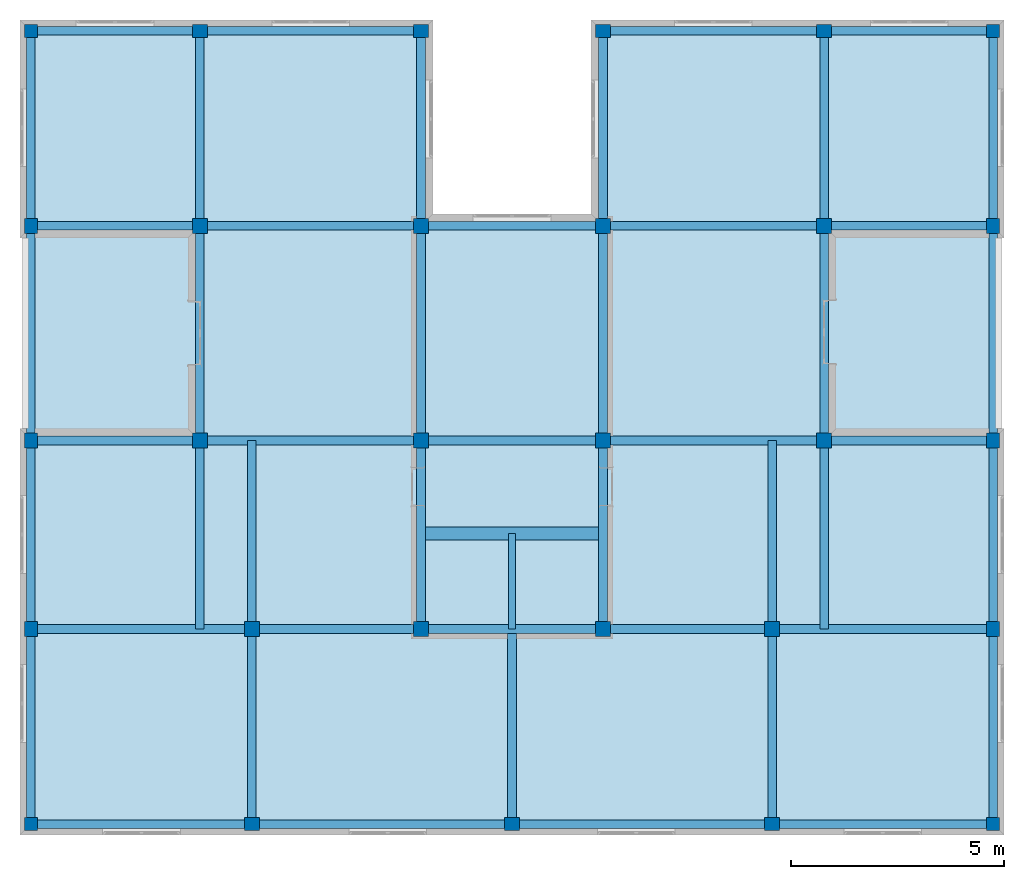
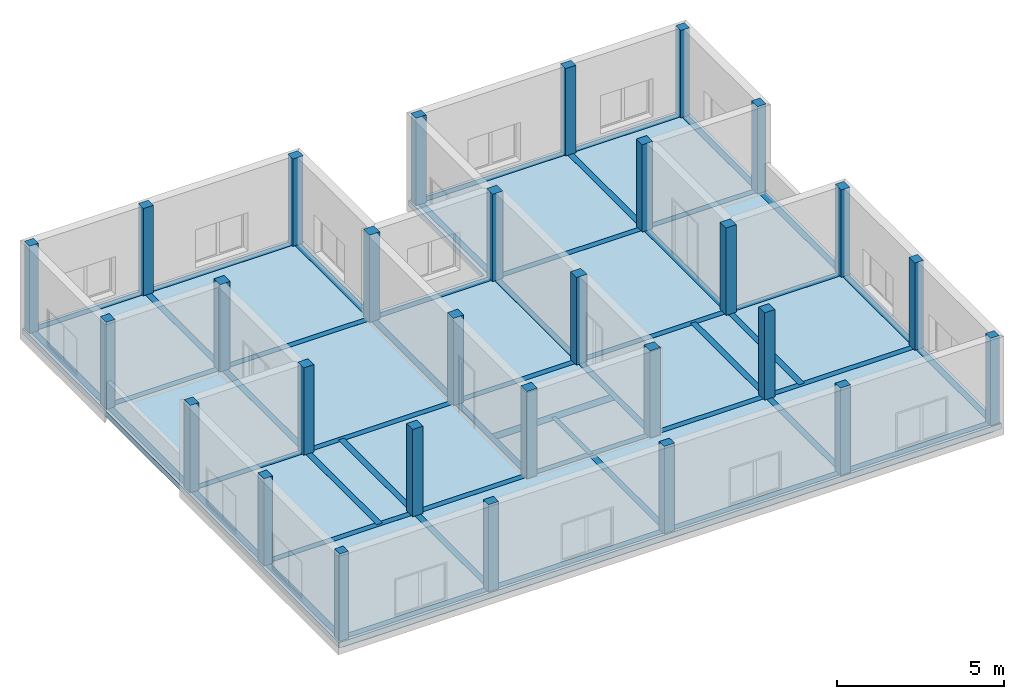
# One storey, part 1 of 6: 50 beams, 29 columns, 1 slab.
"""IFC2X3 building model written with IfcOpenShell, lengths in millimetres."""

import ifcopenshell
import ifcopenshell.guid

model = None  # the IFC model being written
_history = None  # IfcOwnerHistory: only IFC2X3 demands one
_inside = {}  # id of a spatial element -> (the spatial element, [elements in it])
_under = {}  # id of a project, library or spatial element -> (it, [spatial elements below it])
_declared = {}  # id of a project -> (the project, [libraries it declares])
_typed = {}  # id of a type object -> (the type object, [elements of that type])
_made_of = {}  # id of a material, layer set ... -> (it, [elements and type objects made of it])


def new_model(schema):
    """Start an empty IFC model of exactly this schema.

    Asked for "IFC4X3", IfcOpenShell would pick the latest addendum, in which some entities
    have other attributes; the version numbers below select the first issue.
    IFC2X3 requires an IfcOwnerHistory on every rooted entity: one is made here for all.
    """
    global model, _history
    if schema == "IFC4X3":
        model = ifcopenshell.file(schema_version=(4, 3, 0, 0))
    else:
        model = ifcopenshell.file(schema=schema)
    _inside.clear()
    _under.clear()
    _declared.clear()
    _typed.clear()
    _made_of.clear()
    _history = None
    if model.schema == "IFC2X3":
        org = make("IfcOrganization", Name="unknown")
        user = make(
            "IfcPersonAndOrganization",
            ThePerson=make("IfcPerson", FamilyName="unknown"),
            TheOrganization=org,
        )
        app = make(
            "IfcApplication",
            ApplicationDeveloper=org,
            Version="unknown",
            ApplicationFullName="unknown",
            ApplicationIdentifier="unknown",
        )
        _history = make(
            "IfcOwnerHistory",
            OwningUser=user,
            OwningApplication=app,
            ChangeAction="ADDED",
            CreationDate=0,
        )
    return model


def make(cls, **values):
    """One entity of the class cls with the attributes given. An attribute that is None is left unset."""
    return model.create_entity(
        cls, **{name: value for name, value in values.items() if value is not None}
    )


def entity(cls, *values):
    """Any entity or typed value of the class cls, its attributes in the order of the schema. None: left unset."""
    e = model.create_entity(cls)
    for i, value in enumerate(values):
        if value is not None:
            e[i] = value
    return e


def rooted(cls, **values):
    """An entity with a GlobalId (a new one), such as an element, a storey or a relation."""
    return make(cls, GlobalId=ifcopenshell.guid.new(), OwnerHistory=_history, **values)


def si_unit(unit_type, name, prefix=None):
    """IfcSIUnit, for example si_unit("LENGTHUNIT", "METRE", prefix="MILLI")."""
    return make("IfcSIUnit", UnitType=unit_type, Prefix=prefix, Name=name)


def converted_unit(unit_type, name, factor, base, dimensions=None, offset=None):
    """IfcConversionBasedUnit, such as the inch: factor (a typed value) times the base unit."""
    return make(
        "IfcConversionBasedUnit"
        if offset is None
        else "IfcConversionBasedUnitWithOffset",
        ConversionOffset=offset,
        Dimensions=None
        if dimensions is None
        else entity("IfcDimensionalExponents", *dimensions),
        UnitType=unit_type,
        Name=name,
        ConversionFactor=make(
            "IfcMeasureWithUnit", ValueComponent=factor, UnitComponent=base
        ),
    )


def assignment(units):
    """IfcUnitAssignment: the units of a project."""
    return None if units is None else make("IfcUnitAssignment", Units=units)


def point(xyz):
    """IfcCartesianPoint."""
    return None if xyz is None else make("IfcCartesianPoint", Coordinates=xyz)


def direction(xyz):
    """IfcDirection."""
    return None if xyz is None else make("IfcDirection", DirectionRatios=xyz)


def frame(location, z_axis=None, x_axis=None):
    """IfcAxis2Placement3D, a coordinate frame: its origin and axes. An axis left out is left unset."""
    return make(
        "IfcAxis2Placement3D",
        Location=point(location),
        Axis=direction(z_axis),
        RefDirection=direction(x_axis),
    )


def frame_2d(location, x_axis=None):
    """IfcAxis2Placement2D, a coordinate frame in the plane: its origin and x axis."""
    return make(
        "IfcAxis2Placement2D", Location=point(location), RefDirection=direction(x_axis)
    )


def origin_with_axes():
    """The frame at (0, 0, 0) with the z axis (0, 0, 1) and the x axis (1, 0, 0) written out."""
    return frame((0.0, 0.0, 0.0), z_axis=(0.0, 0.0, 1.0), x_axis=(1.0, 0.0, 0.0))


def origin_2d_with_axis():
    """The frame at (0, 0) in the plane with the x axis (1, 0) written out."""
    return frame_2d((0.0, 0.0), x_axis=(1.0, 0.0))


def place(relative_to, where):
    """IfcLocalPlacement: puts the frame where relative to a parent placement (None: the world)."""
    return make(
        "IfcLocalPlacement", PlacementRelTo=relative_to, RelativePlacement=where
    )


def context(
    kind, dimensions, precision=None, world=None, true_north=None, identifier=None
):
    """IfcGeometricRepresentationContext, for example the 3D "Model" context."""
    return make(
        "IfcGeometricRepresentationContext",
        ContextIdentifier=identifier,
        ContextType=kind,
        CoordinateSpaceDimension=dimensions,
        Precision=precision,
        WorldCoordinateSystem=world,
        TrueNorth=true_north,
    )


def subcontext(parent, identifier, kind, view, scale=None):
    """IfcGeometricRepresentationSubContext, for example "Body" below "Model"."""
    return make(
        "IfcGeometricRepresentationSubContext",
        ContextIdentifier=identifier,
        ContextType=kind,
        ParentContext=parent,
        TargetScale=scale,
        TargetView=view,
    )


def project(units=None, contexts=None):
    """IfcProject with its units and contexts."""
    return rooted(
        "IfcProject",
        Name="project",
        RepresentationContexts=contexts,
        UnitsInContext=assignment(units),
    )


def spatial(cls, under=None, at=None, **own):
    """A site, building, storey or space (cls), placed at a placement, below another one or the project."""
    s = rooted(cls, ObjectPlacement=at, **own)
    if under is not None:
        _under.setdefault(under.id(), (under, []))[1].append(s)
    return s


def polyline(points):
    """IfcPolyline through the points."""
    return make("IfcPolyline", Points=[point(p) for p in points])


def profile(cls, at=None, kind="AREA", **sizes):
    """A parametric profile (cls). Its sizes go by their IFC names, for example OverallWidth=200.0."""
    return make(cls, ProfileType=kind, Position=at, **sizes)


def rectangle(**sizes):
    """IfcRectangleProfileDef."""
    return profile("IfcRectangleProfileDef", **sizes)


def outline(outer, holes=None, kind="AREA"):
    """IfcArbitraryClosedProfileDef: a profile drawn as a closed curve; with holes, ...WithVoids."""
    if holes is None:
        return make("IfcArbitraryClosedProfileDef", ProfileType=kind, OuterCurve=outer)
    return make(
        "IfcArbitraryProfileDefWithVoids",
        ProfileType=kind,
        OuterCurve=outer,
        InnerCurves=holes,
    )


def extrude(swept, where, along, depth):
    """IfcExtrudedAreaSolid: the profile swept, set in the frame where, extruded along a direction by depth."""
    return make(
        "IfcExtrudedAreaSolid",
        SweptArea=swept,
        Position=where,
        ExtrudedDirection=direction(along),
        Depth=depth,
    )


def shape(context_of_items, identifier, shape_type, items):
    """IfcShapeRepresentation: the items that make up one representation, for example the "Body"."""
    return make(
        "IfcShapeRepresentation",
        ContextOfItems=context_of_items,
        RepresentationIdentifier=identifier,
        RepresentationType=shape_type,
        Items=items,
    )


def material(Name=None, Category=None):
    """IfcMaterial."""
    return make("IfcMaterial", Name=Name, Category=Category)


def layer(
    of_material, thickness, ventilated=None, Name=None, Category=None, Priority=None
):
    """IfcMaterialLayer: one layer of a wall or slab, of a material (None: an air gap)."""
    return make(
        "IfcMaterialLayer",
        Material=of_material,
        LayerThickness=thickness,
        IsVentilated=ventilated,
        Name=Name,
        Category=Category,
        Priority=Priority,
    )


def layer_set(layers, Name=None):
    """IfcMaterialLayerSet."""
    return make("IfcMaterialLayerSet", MaterialLayers=layers, LayerSetName=Name)


def layer_usage(for_layer_set, set_direction, sense, offset, extent=None):
    """IfcMaterialLayerSetUsage: how a layer set lies in its element."""
    return make(
        "IfcMaterialLayerSetUsage",
        ForLayerSet=for_layer_set,
        LayerSetDirection=set_direction,
        DirectionSense=sense,
        OffsetFromReferenceLine=offset,
        ReferenceExtent=extent,
    )


def made_of(thing, what):
    """Note that an element or type object is made of a material, layer set ...; save() writes the relation."""
    if what is not None:
        _made_of.setdefault(what.id(), (what, []))[1].append(thing)
    return thing


def type_object(cls, material=None, **own):
    """A type object (cls), such as IfcWallType, which elements share."""
    return made_of(rooted(cls, **own), material)


def element(
    cls,
    number,
    at=None,
    inside=None,
    cuts=None,
    type_object=None,
    material=None,
    context=None,
    identifier="Body",
    shape_type=None,
    held_by="IfcProductDefinitionShape",
    body=None,
    shapes=None,
    **own,
):
    """One element of the class cls, such as IfcWall. Its Tag is "e" and its number.

    at: its placement. inside: the storey or other place that contains it. cuts: it is an
    opening in that element (IfcRelVoidsElement). A single representation is given by context,
    identifier, shape_type and body (its items); several are given by shapes. held_by: the class
    of the entity that holds the representations. save() writes the other relations.
    """
    e = rooted(cls, Tag="e%d" % number, ObjectPlacement=at, **own)
    if body is not None:
        shapes = [shape(context, identifier, shape_type, body)]
    if shapes is not None:
        e.Representation = make(held_by, Representations=shapes)
    if inside is not None:
        _inside.setdefault(inside.id(), (inside, []))[1].append(e)
    if cuts is not None:
        rooted(
            "IfcRelVoidsElement", RelatingBuildingElement=cuts, RelatedOpeningElement=e
        )
    if type_object is not None:
        _typed.setdefault(type_object.id(), (type_object, []))[1].append(e)
    return made_of(e, material)


def aggregate(whole, parts):
    """IfcRelAggregates: a whole, such as a stair, and the parts it consists of."""
    return rooted("IfcRelAggregates", RelatingObject=whole, RelatedObjects=parts)


def save(model, path):
    """Write the relations noted so far, then the file.

    IfcRelAggregates (storeys below a building ...), IfcRelContainedInSpatialStructure (elements
    in a storey), IfcRelDefinesByType, IfcRelAssociatesMaterial and IfcRelDeclares: one each for
    every whole, place, type object, material and project.
    """
    for whole, parts in _under.values():
        aggregate(whole, parts)
    for where, things in _inside.values():
        rooted(
            "IfcRelContainedInSpatialStructure",
            RelatedElements=things,
            RelatingStructure=where,
        )
    for kind, things in _typed.values():
        rooted("IfcRelDefinesByType", RelatedObjects=things, RelatingType=kind)
    for what, things in _made_of.values():
        rooted("IfcRelAssociatesMaterial", RelatedObjects=things, RelatingMaterial=what)
    for by, libraries in _declared.values():
        rooted("IfcRelDeclares", RelatingContext=by, RelatedDefinitions=libraries)
    model.write(path)


model = new_model("IFC2X3")

# Units and contexts
model_context = context("Model", 3, precision=1e-05, world=origin_with_axes(), true_north=direction((0.0, 1.0)))
body_context = subcontext(model_context, "Body", "Model", "MODEL_VIEW")
ifc_project = project(units=[si_unit("LENGTHUNIT", "METRE", prefix="MILLI"), si_unit("AREAUNIT", "SQUARE_METRE"), si_unit("VOLUMEUNIT", "CUBIC_METRE"), converted_unit("PLANEANGLEUNIT", "DEGREE", entity("IfcPlaneAngleMeasure", 0.017453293), si_unit("PLANEANGLEUNIT", "RADIAN"), dimensions=[0, 0, 0, 0, 0, 0, 0]), si_unit("SOLIDANGLEUNIT", "STERADIAN"), si_unit("MASSUNIT", "GRAM"), si_unit("TIMEUNIT", "SECOND"), si_unit("THERMODYNAMICTEMPERATUREUNIT", "DEGREE_CELSIUS"), si_unit("LUMINOUSINTENSITYUNIT", "LUMEN")], contexts=[model_context])

# Site, building, storey
site_placement = place(None, origin_with_axes())
site = spatial("IfcSite", under=ifc_project, at=site_placement, Name="Sitio", CompositionType="ELEMENT")
building_placement = place(site_placement, origin_with_axes())
building = spatial("IfcBuilding", under=site, at=building_placement, Name="Ejemplo_StruBIM", CompositionType="ELEMENT")
storey_placement = place(building_placement, frame((0.0, 0.0, 3200.4), z_axis=(0.0, 0.0, 1.0), x_axis=(1.0, 0.0, 0.0)))
storey = spatial("IfcBuildingStorey", under=building, at=storey_placement, Name="First floor", CompositionType="ELEMENT", Elevation=3200.4)

# Columns
ifc_material = material(Name="Hormigón armado")
column_type_1 = type_object("IfcColumnType", Name="12\"X12\"", PredefinedType="NOTDEFINED")
for number, where, z_axis, x_axis, name in (
    (1, (0.0, 0.0, 0.0), (0.0, 0.0, 1.0), (1.0, 0.0, 0.0), "P1"),
    (2, (0.0, 18592.8, 0.0), (0.0, 0.0, 1.0), (1.0, 0.0, 0.0), "P24"),
    (3, (22555.2, 0.0, 0.0), (0.0, 0.0, 1.0), (1.0, 0.0, 0.0), "P5"),
    (4, (22555.2, 18592.8, 0.0), (0.0, 0.0, 1.0), (1.0, 0.0, 0.0), "P29"),
):
    element("IfcColumn", number, at=place(storey_placement, frame(where, z_axis=z_axis, x_axis=x_axis)), inside=storey, type_object=column_type_1, material=ifc_material, Name=name, ObjectType="12\"X12\"", context=body_context, shape_type="SweptSolid", body=[
        extrude(rectangle(XDim=304.8, YDim=304.8, at=origin_2d_with_axis()), origin_with_axes(), (0.0, 0.0, 1.0), 3200.4),
    ])
column_type_2 = type_object("IfcColumnType", Name="12\"X14\"", PredefinedType="NOTDEFINED")
for number, where, z_axis, x_axis, name in (
    (5, (0.0, 4572.0, 0.0), (0.0, 0.0, 1.0), (1.0, 0.0, 0.0), "Pilar-004"),
    (6, (0.0, 8991.6, 0.0), (0.0, 0.0, 1.0), (1.0, 0.0, 0.0), "P12"),
    (7, (0.0, 14020.8, 0.0), (0.0, 0.0, 1.0), (1.0, 0.0, 0.0), "P18"),
    (8, (22555.2, 4572.0, 0.0), (0.0, 0.0, 1.0), (1.0, 0.0, 0.0), "Pilar-004"),
    (9, (22555.2, 8991.6, 0.0), (0.0, 0.0, 1.0), (1.0, 0.0, 0.0), "P17"),
    (10, (22555.2, 14020.8, 0.0), (0.0, 0.0, 1.0), (1.0, 0.0, 0.0), "P23"),
):
    element("IfcColumn", number, at=place(storey_placement, frame(where, z_axis=z_axis, x_axis=x_axis)), inside=storey, type_object=column_type_2, material=ifc_material, Name=name, ObjectType="12\"X14\"", context=body_context, shape_type="SweptSolid", body=[
        extrude(rectangle(XDim=304.8, YDim=355.6, at=origin_2d_with_axis()), origin_with_axes(), (0.0, 0.0, 1.0), 3200.4),
    ])
column_type_3 = type_object("IfcColumnType", Name="14\"X12\"", PredefinedType="NOTDEFINED")
for number, where, z_axis, x_axis, name in (
    (11, (5181.6, 0.0, 0.0), (0.0, 0.0, 1.0), (1.0, 0.0, 0.0), "P2"),
    (12, (11277.6, 0.0, 0.0), (0.0, 0.0, 1.0), (1.0, 0.0, 0.0), "P3"),
    (13, (9144.0, 18592.8, 0.0), (0.0, 0.0, 1.0), (1.0, 0.0, 0.0), "P26"),
    (14, (3962.4, 18592.8, 0.0), (0.0, 0.0, 1.0), (1.0, 0.0, 0.0), "P25"),
    (15, (17373.6, 0.0, 0.0), (0.0, 0.0, 1.0), (1.0, 0.0, 0.0), "P4"),
    (16, (13411.2, 18592.8, 0.0), (0.0, 0.0, 1.0), (1.0, 0.0, 0.0), "P27"),
    (17, (18592.8, 18592.8, 0.0), (0.0, 0.0, 1.0), (1.0, 0.0, 0.0), "P28"),
):
    element("IfcColumn", number, at=place(storey_placement, frame(where, z_axis=z_axis, x_axis=x_axis)), inside=storey, type_object=column_type_3, material=ifc_material, Name=name, ObjectType="14\"X12\"", context=body_context, shape_type="SweptSolid", body=[
        extrude(rectangle(XDim=355.6, YDim=304.8, at=origin_2d_with_axis()), origin_with_axes(), (0.0, 0.0, 1.0), 3200.4),
    ])
column_type_4 = type_object("IfcColumnType", Name="14\"X14\"", PredefinedType="NOTDEFINED")
for number, where, z_axis, x_axis, name in (
    (18, (5181.6, 4572.0, 0.0), (0.0, 0.0, 1.0), (1.0, 0.0, 0.0), "Pilar-004"),
    (19, (3962.4, 8991.6, 0.0), (0.0, 0.0, 1.0), (1.0, 0.0, 0.0), "P13"),
    (20, (3962.4, 14020.8, 0.0), (0.0, 0.0, 1.0), (1.0, 0.0, 0.0), "P19"),
    (21, (9144.0, 14020.8, 0.0), (0.0, 0.0, 1.0), (1.0, 0.0, 0.0), "P20"),
    (22, (9144.0, 8991.6, 0.0), (0.0, 0.0, 1.0), (1.0, 0.0, 0.0), "P14"),
    (23, (9144.0, 4572.0, 0.0), (0.0, 0.0, 1.0), (1.0, 0.0, 0.0), "Pilar-004"),
    (24, (17373.6, 4572.0, 0.0), (0.0, 0.0, 1.0), (1.0, 0.0, 0.0), "Pilar-004"),
    (25, (18592.8, 8991.6, 0.0), (0.0, 0.0, 1.0), (1.0, 0.0, 0.0), "P16"),
    (26, (18592.8, 14020.8, 0.0), (0.0, 0.0, 1.0), (1.0, 0.0, 0.0), "P22"),
    (27, (13411.2, 14020.8, 0.0), (0.0, 0.0, 1.0), (1.0, 0.0, 0.0), "P21"),
    (28, (13411.2, 8991.6, 0.0), (0.0, 0.0, 1.0), (1.0, 0.0, 0.0), "P15"),
    (29, (13411.2, 4572.0, 0.0), (0.0, 0.0, 1.0), (1.0, 0.0, 0.0), "Pilar-004"),
):
    element("IfcColumn", number, at=place(storey_placement, frame(where, z_axis=z_axis, x_axis=x_axis)), inside=storey, type_object=column_type_4, material=ifc_material, Name=name, ObjectType="14\"X14\"", context=body_context, shape_type="SweptSolid", body=[
        extrude(rectangle(XDim=355.6, YDim=355.6, at=origin_2d_with_axis()), origin_with_axes(), (0.0, 0.0, 1.0), 3200.4),
    ])

# Beams
beam_type_1 = type_object("IfcBeamType", Name="12\"X8\"", PredefinedType="NOTDEFINED")
beam_1_placement = place(storey_placement, frame((0.0, 0.0, 0.0), z_axis=(0.0, 0.0, 1.0), x_axis=(0.0, -1.0, 0.0)))
element("IfcBeam", 30, at=beam_1_placement, inside=storey, type_object=beam_type_1, material=ifc_material, Name="Viga-023", ObjectType="12\"X8\"", context=body_context, shape_type="SweptSolid", body=[
    extrude(rectangle(XDim=304.8, YDim=203.2, at=frame_2d((-152.4, 0.0), x_axis=(1.0, 0.0))), frame((0.0, 0.0, 0.0), z_axis=(0.0, 1.0, 0.0), x_axis=(0.0, 0.0, 1.0)), (0.0, 0.0, 1.0), 5181.6),
])
beam_2_placement = place(storey_placement, frame((5181.6, 0.0, 0.0), z_axis=(0.0, 0.0, 1.0), x_axis=(0.0, -1.0, 0.0)))
element("IfcBeam", 31, at=beam_2_placement, inside=storey, type_object=beam_type_1, material=ifc_material, Name="Viga-024", ObjectType="12\"X8\"", context=body_context, shape_type="SweptSolid", body=[
    extrude(rectangle(XDim=304.8, YDim=203.2, at=frame_2d((-152.4, 0.0), x_axis=(1.0, 0.0))), frame((0.0, 0.0, 0.0), z_axis=(0.0, 1.0, 0.0), x_axis=(0.0, 0.0, 1.0)), (0.0, 0.0, 1.0), 6096.0),
])
beam_3_placement = place(storey_placement, frame((3962.4, 14020.8, 0.0), z_axis=(0.0, 0.0, 1.0), x_axis=(-1.0, 0.0, 0.0)))
element("IfcBeam", 32, at=beam_3_placement, inside=storey, type_object=beam_type_1, material=ifc_material, Name="Viga-030", ObjectType="12\"X8\"", context=body_context, shape_type="SweptSolid", body=[
    extrude(rectangle(XDim=304.8, YDim=203.2, at=frame_2d((-152.4, 0.0), x_axis=(1.0, 0.0))), frame((0.0, 0.0, 0.0), z_axis=(0.0, 1.0, 0.0), x_axis=(0.0, 0.0, 1.0)), (0.0, 0.0, 1.0), 5029.2),
])
for number, where, z_axis, x_axis, name in (
    (33, (3962.4, 14020.8, 0.0), (0.0, 0.0, 1.0), (1.0, 0.0, 0.0), "Viga-036"),
    (34, (0.0, 0.0, 0.0), (0.0, 0.0, 1.0), (1.0, 0.0, 0.0), "Viga-023"),
):
    element("IfcBeam", number, at=place(storey_placement, frame(where, z_axis=z_axis, x_axis=x_axis)), inside=storey, type_object=beam_type_1, material=ifc_material, Name=name, ObjectType="12\"X8\"", context=body_context, shape_type="SweptSolid", body=[
        extrude(rectangle(XDim=304.8, YDim=203.2, at=frame_2d((-152.4, 0.0), x_axis=(1.0, 0.0))), frame((0.0, 0.0, 0.0), z_axis=(0.0, 1.0, 0.0), x_axis=(0.0, 0.0, 1.0)), (0.0, 0.0, 1.0), 4572.0),
    ])
beam_4_placement = place(storey_placement, frame((0.0, 4572.0, 0.0), z_axis=(0.0, 0.0, 1.0), x_axis=(1.0, 0.0, 0.0)))
element("IfcBeam", 35, at=beam_4_placement, inside=storey, type_object=beam_type_1, material=ifc_material, Name="Viga-024", ObjectType="12\"X8\"", context=body_context, shape_type="SweptSolid", body=[
    extrude(rectangle(XDim=304.8, YDim=203.2, at=frame_2d((-152.4, 0.0), x_axis=(1.0, 0.0))), frame((0.0, 0.0, 0.0), z_axis=(0.0, 1.0, 0.0), x_axis=(0.0, 0.0, 1.0)), (0.0, 0.0, 1.0), 4419.6),
])
beam_5_placement = place(storey_placement, frame((0.0, 8991.6, 0.0), z_axis=(0.0, 0.0, 1.0), x_axis=(1.0, 0.0, 0.0)))
element("IfcBeam", 36, at=beam_5_placement, inside=storey, type_object=beam_type_1, material=ifc_material, Name="Viga-025", ObjectType="12\"X8\"", context=body_context, shape_type="SweptSolid", body=[
    extrude(rectangle(XDim=304.8, YDim=203.2, at=frame_2d((-152.4, 0.0), x_axis=(1.0, 0.0))), frame((0.0, 0.0, 0.0), z_axis=(0.0, 1.0, 0.0), x_axis=(0.0, 0.0, 1.0)), (0.0, 0.0, 1.0), 5029.2),
])
beam_6_placement = place(storey_placement, frame((0.0, 14020.8, 0.0), z_axis=(0.0, 0.0, 1.0), x_axis=(1.0, 0.0, 0.0)))
element("IfcBeam", 37, at=beam_6_placement, inside=storey, type_object=beam_type_1, material=ifc_material, Name="Viga-026", ObjectType="12\"X8\"", context=body_context, shape_type="SweptSolid", body=[
    extrude(rectangle(XDim=304.8, YDim=203.2, at=frame_2d((-152.4, 0.0), x_axis=(1.0, 0.0))), frame((0.0, 0.0, 0.0), z_axis=(0.0, 1.0, 0.0), x_axis=(0.0, 0.0, 1.0)), (0.0, 0.0, 1.0), 4572.0),
])
beam_7_placement = place(storey_placement, frame((0.0, 18592.8, 0.0), z_axis=(0.0, 0.0, 1.0), x_axis=(0.0, -1.0, 0.0)))
element("IfcBeam", 38, at=beam_7_placement, inside=storey, type_object=beam_type_1, material=ifc_material, Name="Viga-027", ObjectType="12\"X8\"", context=body_context, shape_type="SweptSolid", body=[
    extrude(rectangle(XDim=304.8, YDim=203.2, at=frame_2d((-152.4, 0.0), x_axis=(1.0, 0.0))), frame((0.0, 0.0, 0.0), z_axis=(0.0, 1.0, 0.0), x_axis=(0.0, 0.0, 1.0)), (0.0, 0.0, 1.0), 3962.4),
])
beam_8_placement = place(storey_placement, frame((3962.4, 18592.8, 0.0), z_axis=(0.0, 0.0, 1.0), x_axis=(0.0, -1.0, 0.0)))
element("IfcBeam", 39, at=beam_8_placement, inside=storey, type_object=beam_type_1, material=ifc_material, Name="Viga-028", ObjectType="12\"X8\"", context=body_context, shape_type="SweptSolid", body=[
    extrude(rectangle(XDim=304.8, YDim=203.2, at=frame_2d((-152.4, 0.0), x_axis=(1.0, 0.0))), frame((0.0, 0.0, 0.0), z_axis=(0.0, 1.0, 0.0), x_axis=(0.0, 0.0, 1.0)), (0.0, 0.0, 1.0), 5181.6),
])
beam_9_placement = place(storey_placement, frame((9144.0, 18592.8, 0.0), z_axis=(0.0, 0.0, 1.0), x_axis=(-1.0, 0.0, 0.0)))
element("IfcBeam", 40, at=beam_9_placement, inside=storey, type_object=beam_type_1, material=ifc_material, Name="Viga-029", ObjectType="12\"X8\"", context=body_context, shape_type="SweptSolid", body=[
    extrude(rectangle(XDim=304.8, YDim=203.2, at=frame_2d((-152.4, 0.0), x_axis=(1.0, 0.0))), frame((0.0, 0.0, 0.0), z_axis=(0.0, 1.0, 0.0), x_axis=(0.0, 0.0, 1.0)), (0.0, 0.0, 1.0), 4572.0),
])
beam_10_placement = place(storey_placement, frame((9144.0, 14020.8, 0.0), z_axis=(0.0, 0.0, 1.0), x_axis=(0.0, 1.0, 0.0)))
element("IfcBeam", 41, at=beam_10_placement, inside=storey, type_object=beam_type_1, material=ifc_material, Name="Viga-030", ObjectType="12\"X8\"", context=body_context, shape_type="SweptSolid", body=[
    extrude(rectangle(XDim=304.8, YDim=203.2, at=frame_2d((-152.4, 0.0), x_axis=(1.0, 0.0))), frame((0.0, 0.0, 0.0), z_axis=(0.0, 1.0, 0.0), x_axis=(0.0, 0.0, 1.0)), (0.0, 0.0, 1.0), 5181.6),
])
beam_11_placement = place(storey_placement, frame((3962.4, 14020.8, 0.0), z_axis=(0.0, 0.0, 1.0), x_axis=(0.0, 1.0, 0.0)))
element("IfcBeam", 42, at=beam_11_placement, inside=storey, type_object=beam_type_1, material=ifc_material, Name="Viga-031", ObjectType="12\"X8\"", context=body_context, shape_type="SweptSolid", body=[
    extrude(rectangle(XDim=304.8, YDim=203.2, at=frame_2d((-152.4, 0.0), x_axis=(1.0, 0.0))), frame((0.0, 0.0, 0.0), z_axis=(0.0, 1.0, 0.0), x_axis=(0.0, 0.0, 1.0)), (0.0, 0.0, 1.0), 3962.4),
])
beam_12_placement = place(storey_placement, frame((9144.0, 8991.6, 0.0), z_axis=(0.0, 0.0, 1.0), x_axis=(1.0, 0.0, 0.0)))
element("IfcBeam", 43, at=beam_12_placement, inside=storey, type_object=beam_type_1, material=ifc_material, Name="Viga-032", ObjectType="12\"X8\"", context=body_context, shape_type="SweptSolid", body=[
    extrude(rectangle(XDim=304.8, YDim=203.2, at=frame_2d((-152.4, 0.0), x_axis=(1.0, 0.0))), frame((0.0, 0.0, 0.0), z_axis=(0.0, 1.0, 0.0), x_axis=(0.0, 0.0, 1.0)), (0.0, 0.0, 1.0), 5029.2),
])
beam_13_placement = place(storey_placement, frame((3962.4, 8991.6, 0.0), z_axis=(0.0, 0.0, 1.0), x_axis=(0.0, 1.0, 0.0)))
element("IfcBeam", 44, at=beam_13_placement, inside=storey, type_object=beam_type_1, material=ifc_material, Name="Viga-034", ObjectType="12\"X8\"", context=body_context, shape_type="SweptSolid", body=[
    extrude(rectangle(XDim=304.8, YDim=203.2, at=frame_2d((-152.4, 0.0), x_axis=(1.0, 0.0))), frame((0.0, 0.0, 0.0), z_axis=(0.0, 1.0, 0.0), x_axis=(0.0, 0.0, 1.0)), (0.0, 0.0, 1.0), 3962.4),
])
beam_14_placement = place(storey_placement, frame((9144.0, 8991.6, 0.0), z_axis=(0.0, 0.0, 1.0), x_axis=(-1.0, 0.0, 0.0)))
element("IfcBeam", 45, at=beam_14_placement, inside=storey, type_object=beam_type_1, material=ifc_material, Name="Viga-033", ObjectType="12\"X8\"", context=body_context, shape_type="SweptSolid", body=[
    extrude(rectangle(XDim=304.8, YDim=203.2, at=frame_2d((-152.4, 0.0), x_axis=(1.0, 0.0))), frame((0.0, 0.0, 0.0), z_axis=(0.0, 1.0, 0.0), x_axis=(0.0, 0.0, 1.0)), (0.0, 0.0, 1.0), 4419.6),
])
beam_15_placement = place(storey_placement, frame((9144.0, 4572.0, 0.0), z_axis=(0.0, 0.0, 1.0), x_axis=(0.0, 1.0, 0.0)))
element("IfcBeam", 46, at=beam_15_placement, inside=storey, type_object=beam_type_1, material=ifc_material, Name="Viga-034", ObjectType="12\"X8\"", context=body_context, shape_type="SweptSolid", body=[
    extrude(rectangle(XDim=304.8, YDim=203.2, at=frame_2d((-152.4, 0.0), x_axis=(1.0, 0.0))), frame((0.0, 0.0, 0.0), z_axis=(0.0, 1.0, 0.0), x_axis=(0.0, 0.0, 1.0)), (0.0, 0.0, 1.0), 3962.4),
])
beam_16_placement = place(storey_placement, frame((5181.6, 4572.0, 0.0), z_axis=(0.0, 0.0, 1.0), x_axis=(0.0, 1.0, 0.0)))
element("IfcBeam", 47, at=beam_16_placement, inside=storey, type_object=beam_type_1, material=ifc_material, Name="Viga-035", ObjectType="12\"X8\"", context=body_context, shape_type="SweptSolid", body=[
    extrude(rectangle(XDim=304.8, YDim=203.2, at=frame_2d((-152.4, 0.0), x_axis=(1.0, 0.0))), frame((0.0, 0.0, 0.0), z_axis=(0.0, 1.0, 0.0), x_axis=(0.0, 0.0, 1.0)), (0.0, 0.0, 1.0), 5181.6),
])
beam_17_placement = place(storey_placement, frame((5181.6, 0.0, 0.0), z_axis=(0.0, 0.0, 1.0), x_axis=(1.0, 0.0, 0.0)))
element("IfcBeam", 48, at=beam_17_placement, inside=storey, type_object=beam_type_1, material=ifc_material, Name="Viga-036", ObjectType="12\"X8\"", context=body_context, shape_type="SweptSolid", body=[
    extrude(rectangle(XDim=304.8, YDim=203.2, at=frame_2d((-152.4, 0.0), x_axis=(1.0, 0.0))), frame((0.0, 0.0, 0.0), z_axis=(0.0, 1.0, 0.0), x_axis=(0.0, 0.0, 1.0)), (0.0, 0.0, 1.0), 4572.0),
])
beam_18_placement = place(storey_placement, frame((9144.0, 4572.0, 0.0), z_axis=(0.0, 0.0, 1.0), x_axis=(0.0, -1.0, 0.0)))
element("IfcBeam", 49, at=beam_18_placement, inside=storey, type_object=beam_type_1, material=ifc_material, Name="Viga-037", ObjectType="12\"X8\"", context=body_context, shape_type="SweptSolid", body=[
    extrude(rectangle(XDim=304.8, YDim=203.2, at=frame_2d((-152.4, 0.0), x_axis=(1.0, 0.0))), frame((0.0, 0.0, 0.0), z_axis=(0.0, 1.0, 0.0), x_axis=(0.0, 0.0, 1.0)), (0.0, 0.0, 1.0), 4267.2),
])
beam_19_placement = place(storey_placement, frame((11277.6, 0.0, 0.0), z_axis=(0.0, 0.0, 1.0), x_axis=(1.0, 0.0, 0.0)))
element("IfcBeam", 50, at=beam_19_placement, inside=storey, type_object=beam_type_1, material=ifc_material, Name="Viga-038", ObjectType="12\"X8\"", context=body_context, shape_type="SweptSolid", body=[
    extrude(rectangle(XDim=304.8, YDim=203.2, at=frame_2d((-152.4, 0.0), x_axis=(1.0, 0.0))), frame((0.0, 0.0, 0.0), z_axis=(0.0, 1.0, 0.0), x_axis=(0.0, 0.0, 1.0)), (0.0, 0.0, 1.0), 4572.0),
])
for number, where, z_axis, x_axis, name in (
    (51, (9144.0, 8991.6, 0.0), (0.0, 0.0, 1.0), (0.0, -1.0, 0.0), "Viga-034"),
    (52, (9144.0, 14020.8, 0.0), (0.0, 0.0, 1.0), (0.0, -1.0, 0.0), "Viga-035"),
):
    element("IfcBeam", number, at=place(storey_placement, frame(where, z_axis=z_axis, x_axis=x_axis)), inside=storey, type_object=beam_type_1, material=ifc_material, Name=name, ObjectType="12\"X8\"", context=body_context, shape_type="SweptSolid", body=[
        extrude(rectangle(XDim=304.8, YDim=203.2, at=frame_2d((-152.4, 0.0), x_axis=(1.0, 0.0))), frame((0.0, 0.0, 0.0), z_axis=(0.0, 1.0, 0.0), x_axis=(0.0, 0.0, 1.0)), (0.0, 0.0, 1.0), 4267.2),
    ])
beam_20_placement = place(storey_placement, frame((22555.2, 0.0, 0.0), z_axis=(0.0, 0.0, 1.0), x_axis=(0.0, 1.0, 0.0)))
element("IfcBeam", 53, at=beam_20_placement, inside=storey, type_object=beam_type_1, material=ifc_material, Name="Viga-023", ObjectType="12\"X8\"", context=body_context, shape_type="SweptSolid", body=[
    extrude(rectangle(XDim=304.8, YDim=203.2, at=frame_2d((-152.4, 0.0), x_axis=(1.0, 0.0))), frame((0.0, 0.0, 0.0), z_axis=(0.0, 1.0, 0.0), x_axis=(0.0, 0.0, 1.0)), (0.0, 0.0, 1.0), 5181.6),
])
beam_21_placement = place(storey_placement, frame((17373.6, 0.0, 0.0), z_axis=(0.0, 0.0, 1.0), x_axis=(0.0, 1.0, 0.0)))
element("IfcBeam", 54, at=beam_21_placement, inside=storey, type_object=beam_type_1, material=ifc_material, Name="Viga-024", ObjectType="12\"X8\"", context=body_context, shape_type="SweptSolid", body=[
    extrude(rectangle(XDim=304.8, YDim=203.2, at=frame_2d((-152.4, 0.0), x_axis=(1.0, 0.0))), frame((0.0, 0.0, 0.0), z_axis=(0.0, 1.0, 0.0), x_axis=(0.0, 0.0, 1.0)), (0.0, 0.0, 1.0), 6096.0),
])
beam_22_placement = place(storey_placement, frame((22555.2, 0.0, 0.0), z_axis=(0.0, 0.0, 1.0), x_axis=(1.0, 0.0, 0.0)))
element("IfcBeam", 55, at=beam_22_placement, inside=storey, type_object=beam_type_1, material=ifc_material, Name="Viga-023", ObjectType="12\"X8\"", context=body_context, shape_type="SweptSolid", body=[
    extrude(rectangle(XDim=304.8, YDim=203.2, at=frame_2d((-152.4, 0.0), x_axis=(1.0, 0.0))), frame((0.0, 0.0, 0.0), z_axis=(0.0, 1.0, 0.0), x_axis=(0.0, 0.0, 1.0)), (0.0, 0.0, 1.0), 4572.0),
])
beam_23_placement = place(storey_placement, frame((22555.2, 4572.0, 0.0), z_axis=(0.0, 0.0, 1.0), x_axis=(1.0, 0.0, 0.0)))
element("IfcBeam", 56, at=beam_23_placement, inside=storey, type_object=beam_type_1, material=ifc_material, Name="Viga-024", ObjectType="12\"X8\"", context=body_context, shape_type="SweptSolid", body=[
    extrude(rectangle(XDim=304.8, YDim=203.2, at=frame_2d((-152.4, 0.0), x_axis=(1.0, 0.0))), frame((0.0, 0.0, 0.0), z_axis=(0.0, 1.0, 0.0), x_axis=(0.0, 0.0, 1.0)), (0.0, 0.0, 1.0), 4419.6),
])
beam_24_placement = place(storey_placement, frame((22555.2, 8991.6, 0.0), z_axis=(0.0, 0.0, 1.0), x_axis=(1.0, 0.0, 0.0)))
element("IfcBeam", 57, at=beam_24_placement, inside=storey, type_object=beam_type_1, material=ifc_material, Name="Viga-025", ObjectType="12\"X8\"", context=body_context, shape_type="SweptSolid", body=[
    extrude(rectangle(XDim=304.8, YDim=203.2, at=frame_2d((-152.4, 0.0), x_axis=(1.0, 0.0))), frame((0.0, 0.0, 0.0), z_axis=(0.0, 1.0, 0.0), x_axis=(0.0, 0.0, 1.0)), (0.0, 0.0, 1.0), 5029.2),
])
beam_25_placement = place(storey_placement, frame((22555.2, 14020.8, 0.0), z_axis=(0.0, 0.0, 1.0), x_axis=(1.0, 0.0, 0.0)))
element("IfcBeam", 58, at=beam_25_placement, inside=storey, type_object=beam_type_1, material=ifc_material, Name="Viga-026", ObjectType="12\"X8\"", context=body_context, shape_type="SweptSolid", body=[
    extrude(rectangle(XDim=304.8, YDim=203.2, at=frame_2d((-152.4, 0.0), x_axis=(1.0, 0.0))), frame((0.0, 0.0, 0.0), z_axis=(0.0, 1.0, 0.0), x_axis=(0.0, 0.0, 1.0)), (0.0, 0.0, 1.0), 4572.0),
])
beam_26_placement = place(storey_placement, frame((22555.2, 18592.8, 0.0), z_axis=(0.0, 0.0, 1.0), x_axis=(0.0, 1.0, 0.0)))
element("IfcBeam", 59, at=beam_26_placement, inside=storey, type_object=beam_type_1, material=ifc_material, Name="Viga-027", ObjectType="12\"X8\"", context=body_context, shape_type="SweptSolid", body=[
    extrude(rectangle(XDim=304.8, YDim=203.2, at=frame_2d((-152.4, 0.0), x_axis=(1.0, 0.0))), frame((0.0, 0.0, 0.0), z_axis=(0.0, 1.0, 0.0), x_axis=(0.0, 0.0, 1.0)), (0.0, 0.0, 1.0), 3962.4),
])
beam_27_placement = place(storey_placement, frame((18592.8, 18592.8, 0.0), z_axis=(0.0, 0.0, 1.0), x_axis=(0.0, 1.0, 0.0)))
element("IfcBeam", 60, at=beam_27_placement, inside=storey, type_object=beam_type_1, material=ifc_material, Name="Viga-028", ObjectType="12\"X8\"", context=body_context, shape_type="SweptSolid", body=[
    extrude(rectangle(XDim=304.8, YDim=203.2, at=frame_2d((-152.4, 0.0), x_axis=(1.0, 0.0))), frame((0.0, 0.0, 0.0), z_axis=(0.0, 1.0, 0.0), x_axis=(0.0, 0.0, 1.0)), (0.0, 0.0, 1.0), 5181.6),
])
beam_28_placement = place(storey_placement, frame((13411.2, 18592.8, 0.0), z_axis=(0.0, 0.0, 1.0), x_axis=(-1.0, 0.0, 0.0)))
element("IfcBeam", 61, at=beam_28_placement, inside=storey, type_object=beam_type_1, material=ifc_material, Name="Viga-029", ObjectType="12\"X8\"", context=body_context, shape_type="SweptSolid", body=[
    extrude(rectangle(XDim=304.8, YDim=203.2, at=frame_2d((-152.4, 0.0), x_axis=(1.0, 0.0))), frame((0.0, 0.0, 0.0), z_axis=(0.0, 1.0, 0.0), x_axis=(0.0, 0.0, 1.0)), (0.0, 0.0, 1.0), 4572.0),
])
beam_29_placement = place(storey_placement, frame((13411.2, 14020.8, 0.0), z_axis=(0.0, 0.0, 1.0), x_axis=(0.0, -1.0, 0.0)))
element("IfcBeam", 62, at=beam_29_placement, inside=storey, type_object=beam_type_1, material=ifc_material, Name="Viga-030", ObjectType="12\"X8\"", context=body_context, shape_type="SweptSolid", body=[
    extrude(rectangle(XDim=304.8, YDim=203.2, at=frame_2d((-152.4, 0.0), x_axis=(1.0, 0.0))), frame((0.0, 0.0, 0.0), z_axis=(0.0, 1.0, 0.0), x_axis=(0.0, 0.0, 1.0)), (0.0, 0.0, 1.0), 5181.6),
])
beam_30_placement = place(storey_placement, frame((18592.8, 14020.8, 0.0), z_axis=(0.0, 0.0, 1.0), x_axis=(0.0, -1.0, 0.0)))
element("IfcBeam", 63, at=beam_30_placement, inside=storey, type_object=beam_type_1, material=ifc_material, Name="Viga-031", ObjectType="12\"X8\"", context=body_context, shape_type="SweptSolid", body=[
    extrude(rectangle(XDim=304.8, YDim=203.2, at=frame_2d((-152.4, 0.0), x_axis=(1.0, 0.0))), frame((0.0, 0.0, 0.0), z_axis=(0.0, 1.0, 0.0), x_axis=(0.0, 0.0, 1.0)), (0.0, 0.0, 1.0), 3962.4),
])
beam_31_placement = place(storey_placement, frame((13411.2, 8991.6, 0.0), z_axis=(0.0, 0.0, 1.0), x_axis=(1.0, 0.0, 0.0)))
element("IfcBeam", 64, at=beam_31_placement, inside=storey, type_object=beam_type_1, material=ifc_material, Name="Viga-032", ObjectType="12\"X8\"", context=body_context, shape_type="SweptSolid", body=[
    extrude(rectangle(XDim=304.8, YDim=203.2, at=frame_2d((-152.4, 0.0), x_axis=(1.0, 0.0))), frame((0.0, 0.0, 0.0), z_axis=(0.0, 1.0, 0.0), x_axis=(0.0, 0.0, 1.0)), (0.0, 0.0, 1.0), 5029.2),
])
beam_32_placement = place(storey_placement, frame((13411.2, 8991.6, 0.0), z_axis=(0.0, 0.0, 1.0), x_axis=(0.0, -1.0, 0.0)))
element("IfcBeam", 65, at=beam_32_placement, inside=storey, type_object=beam_type_1, material=ifc_material, Name="Viga-033", ObjectType="12\"X8\"", context=body_context, shape_type="SweptSolid", body=[
    extrude(rectangle(XDim=304.8, YDim=203.2, at=frame_2d((-152.4, 0.0), x_axis=(1.0, 0.0))), frame((0.0, 0.0, 0.0), z_axis=(0.0, 1.0, 0.0), x_axis=(0.0, 0.0, 1.0)), (0.0, 0.0, 1.0), 5181.6),
])
beam_33_placement = place(storey_placement, frame((18592.8, 8991.6, 0.0), z_axis=(0.0, 0.0, 1.0), x_axis=(0.0, -1.0, 0.0)))
element("IfcBeam", 66, at=beam_33_placement, inside=storey, type_object=beam_type_1, material=ifc_material, Name="Viga-034", ObjectType="12\"X8\"", context=body_context, shape_type="SweptSolid", body=[
    extrude(rectangle(XDim=304.8, YDim=203.2, at=frame_2d((-152.4, 0.0), x_axis=(1.0, 0.0))), frame((0.0, 0.0, 0.0), z_axis=(0.0, 1.0, 0.0), x_axis=(0.0, 0.0, 1.0)), (0.0, 0.0, 1.0), 3962.4),
])
beam_34_placement = place(storey_placement, frame((18592.8, 14020.8, 0.0), z_axis=(0.0, 0.0, 1.0), x_axis=(1.0, 0.0, 0.0)))
element("IfcBeam", 67, at=beam_34_placement, inside=storey, type_object=beam_type_1, material=ifc_material, Name="Viga-036", ObjectType="12\"X8\"", context=body_context, shape_type="SweptSolid", body=[
    extrude(rectangle(XDim=304.8, YDim=203.2, at=frame_2d((-152.4, 0.0), x_axis=(1.0, 0.0))), frame((0.0, 0.0, 0.0), z_axis=(0.0, 1.0, 0.0), x_axis=(0.0, 0.0, 1.0)), (0.0, 0.0, 1.0), 4572.0),
])
beam_35_placement = place(storey_placement, frame((18592.8, 14020.8, 0.0), z_axis=(0.0, 0.0, 1.0), x_axis=(-1.0, 0.0, 0.0)))
element("IfcBeam", 68, at=beam_35_placement, inside=storey, type_object=beam_type_1, material=ifc_material, Name="Viga-030", ObjectType="12\"X8\"", context=body_context, shape_type="SweptSolid", body=[
    extrude(rectangle(XDim=304.8, YDim=203.2, at=frame_2d((-152.4, 0.0), x_axis=(1.0, 0.0))), frame((0.0, 0.0, 0.0), z_axis=(0.0, 1.0, 0.0), x_axis=(0.0, 0.0, 1.0)), (0.0, 0.0, 1.0), 5029.2),
])
beam_36_placement = place(storey_placement, frame((13411.2, 8991.6, 0.0), z_axis=(0.0, 0.0, 1.0), x_axis=(-1.0, 0.0, 0.0)))
element("IfcBeam", 69, at=beam_36_placement, inside=storey, type_object=beam_type_1, material=ifc_material, Name="Viga-033", ObjectType="12\"X8\"", context=body_context, shape_type="SweptSolid", body=[
    extrude(rectangle(XDim=304.8, YDim=203.2, at=frame_2d((-152.4, 0.0), x_axis=(1.0, 0.0))), frame((0.0, 0.0, 0.0), z_axis=(0.0, 1.0, 0.0), x_axis=(0.0, 0.0, 1.0)), (0.0, 0.0, 1.0), 4419.6),
])
beam_37_placement = place(storey_placement, frame((13411.2, 4572.0, 0.0), z_axis=(0.0, 0.0, 1.0), x_axis=(0.0, -1.0, 0.0)))
element("IfcBeam", 70, at=beam_37_placement, inside=storey, type_object=beam_type_1, material=ifc_material, Name="Viga-034", ObjectType="12\"X8\"", context=body_context, shape_type="SweptSolid", body=[
    extrude(rectangle(XDim=304.8, YDim=203.2, at=frame_2d((-152.4, 0.0), x_axis=(1.0, 0.0))), frame((0.0, 0.0, 0.0), z_axis=(0.0, 1.0, 0.0), x_axis=(0.0, 0.0, 1.0)), (0.0, 0.0, 1.0), 3962.4),
])
beam_38_placement = place(storey_placement, frame((17373.6, 4572.0, 0.0), z_axis=(0.0, 0.0, 1.0), x_axis=(0.0, -1.0, 0.0)))
element("IfcBeam", 71, at=beam_38_placement, inside=storey, type_object=beam_type_1, material=ifc_material, Name="Viga-035", ObjectType="12\"X8\"", context=body_context, shape_type="SweptSolid", body=[
    extrude(rectangle(XDim=304.8, YDim=203.2, at=frame_2d((-152.4, 0.0), x_axis=(1.0, 0.0))), frame((0.0, 0.0, 0.0), z_axis=(0.0, 1.0, 0.0), x_axis=(0.0, 0.0, 1.0)), (0.0, 0.0, 1.0), 5181.6),
])
beam_39_placement = place(storey_placement, frame((17373.6, 0.0, 0.0), z_axis=(0.0, 0.0, 1.0), x_axis=(1.0, 0.0, 0.0)))
element("IfcBeam", 72, at=beam_39_placement, inside=storey, type_object=beam_type_1, material=ifc_material, Name="Viga-036", ObjectType="12\"X8\"", context=body_context, shape_type="SweptSolid", body=[
    extrude(rectangle(XDim=304.8, YDim=203.2, at=frame_2d((-152.4, 0.0), x_axis=(1.0, 0.0))), frame((0.0, 0.0, 0.0), z_axis=(0.0, 1.0, 0.0), x_axis=(0.0, 0.0, 1.0)), (0.0, 0.0, 1.0), 4572.0),
])
beam_40_placement = place(storey_placement, frame((9144.0, 8991.6, 0.0), z_axis=(0.0, 0.0, 1.0), x_axis=(0.0, 1.0, 0.0)))
element("IfcBeam", 73, at=beam_40_placement, inside=storey, type_object=beam_type_1, material=ifc_material, Name="Viga-033", ObjectType="12\"X8\"", context=body_context, shape_type="SweptSolid", body=[
    extrude(rectangle(XDim=304.8, YDim=203.2, at=frame_2d((-152.4, 0.0), x_axis=(1.0, 0.0))), frame((0.0, 0.0, 0.0), z_axis=(0.0, 1.0, 0.0), x_axis=(0.0, 0.0, 1.0)), (0.0, 0.0, 1.0), 5181.6),
])
for number, where, z_axis, x_axis, name in (
    (74, (3962.4, 8991.6, 0.0), (0.0, 0.0, 1.0), (-1.0, 0.0, 0.0), "Viga-036"),
    (75, (5181.6, 4572.0, 0.0), (0.0, 0.0, 1.0), (1.0, 0.0, 0.0), "Viga-037"),
    (76, (17373.6, 4572.0, 0.0), (0.0, 0.0, 1.0), (1.0, 0.0, 0.0), "Viga-038"),
    (77, (18592.8, 8991.6, 0.0), (0.0, 0.0, 1.0), (-1.0, 0.0, 0.0), "Viga-039"),
):
    element("IfcBeam", number, at=place(storey_placement, frame(where, z_axis=z_axis, x_axis=x_axis)), inside=storey, type_object=beam_type_1, material=ifc_material, Name=name, ObjectType="12\"X8\"", context=body_context, shape_type="SweptSolid", body=[
        extrude(rectangle(XDim=304.8, YDim=203.2, at=frame_2d((-152.4, 0.0), x_axis=(1.0, 0.0))), frame((0.0, 0.0, 0.0), z_axis=(0.0, 1.0, 0.0), x_axis=(0.0, 0.0, 1.0)), (0.0, 0.0, 1.0), 4419.6),
    ])
beam_type_2 = type_object("IfcBeamType", Name="8\"X12\"", PredefinedType="NOTDEFINED")
beam_41_placement = place(storey_placement, frame((9144.0, 6807.2, 0.0), z_axis=(0.0, 0.0, 1.0), x_axis=(0.0, -1.0, 0.0)))
element("IfcBeam", 78, at=beam_41_placement, inside=storey, type_object=beam_type_2, material=ifc_material, Name="Viga-034", ObjectType="8\"X12\"", context=body_context, shape_type="SweptSolid", body=[
    extrude(rectangle(XDim=203.2, YDim=304.8, at=frame_2d((-101.6, 0.0), x_axis=(1.0, 0.0))), frame((0.0, 0.0, 0.0), z_axis=(0.0, 1.0, 0.0), x_axis=(0.0, 0.0, 1.0)), (0.0, 0.0, 1.0), 4267.2),
])
beam_type_3 = type_object("IfcBeamType", Name="8\"X6\"", PredefinedType="NOTDEFINED")
beam_42_placement = place(storey_placement, frame((11277.6, 4572.0, 0.0), z_axis=(0.0, 0.0, 1.0), x_axis=(1.0, 0.0, 0.0)))
element("IfcBeam", 79, at=beam_42_placement, inside=storey, type_object=beam_type_3, material=ifc_material, Name="Viga-035", ObjectType="8\"X6\"", context=body_context, shape_type="SweptSolid", body=[
    extrude(rectangle(XDim=203.2, YDim=152.4, at=frame_2d((-101.6, 0.0), x_axis=(1.0, 0.0))), frame((0.0, 0.0, 0.0), z_axis=(0.0, 1.0, 0.0), x_axis=(0.0, 0.0, 1.0)), (0.0, 0.0, 1.0), 2235.2),
])

# Slab
ifc_layer = layer(ifc_material, 203.2, ventilated="UNKNOWN")
ifc_layer_set = layer_set([ifc_layer], Name="Hormigón armado 203.2")
ifc_layer_usage = layer_usage(ifc_layer_set, "AXIS3", "NEGATIVE", 203.2)
slab_placement = place(storey_placement, frame((-203.2, -203.2, -203.2), z_axis=(0.0, 0.0, 1.0), x_axis=(1.0, 0.0, 0.0)))
element("IfcSlab", 80, at=slab_placement, inside=storey, material=ifc_layer_usage, Name="Forj-003", PredefinedType="FLOOR", context=body_context, shape_type="SweptSolid", body=[
    extrude(outline(polyline([(0.0, 0.0), (22961.6, 0.0), (22961.6, 18999.2), (13385.8, 18999.2), (13385.8, 14452.6), (9575.8, 14452.6), (9575.8, 18999.2), (0.0, 18999.2), (0.0, 0.0)])), origin_with_axes(), (0.0, 0.0, 1.0), 203.2),
])

save(model, "model.ifc")
